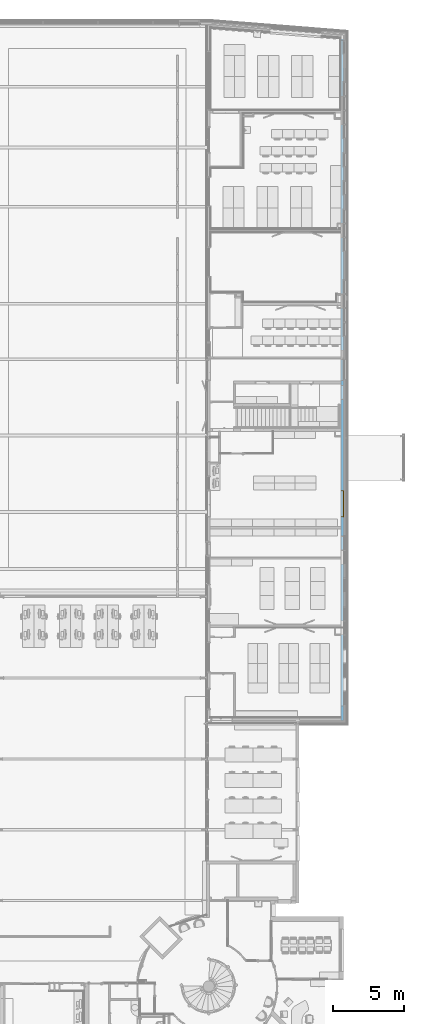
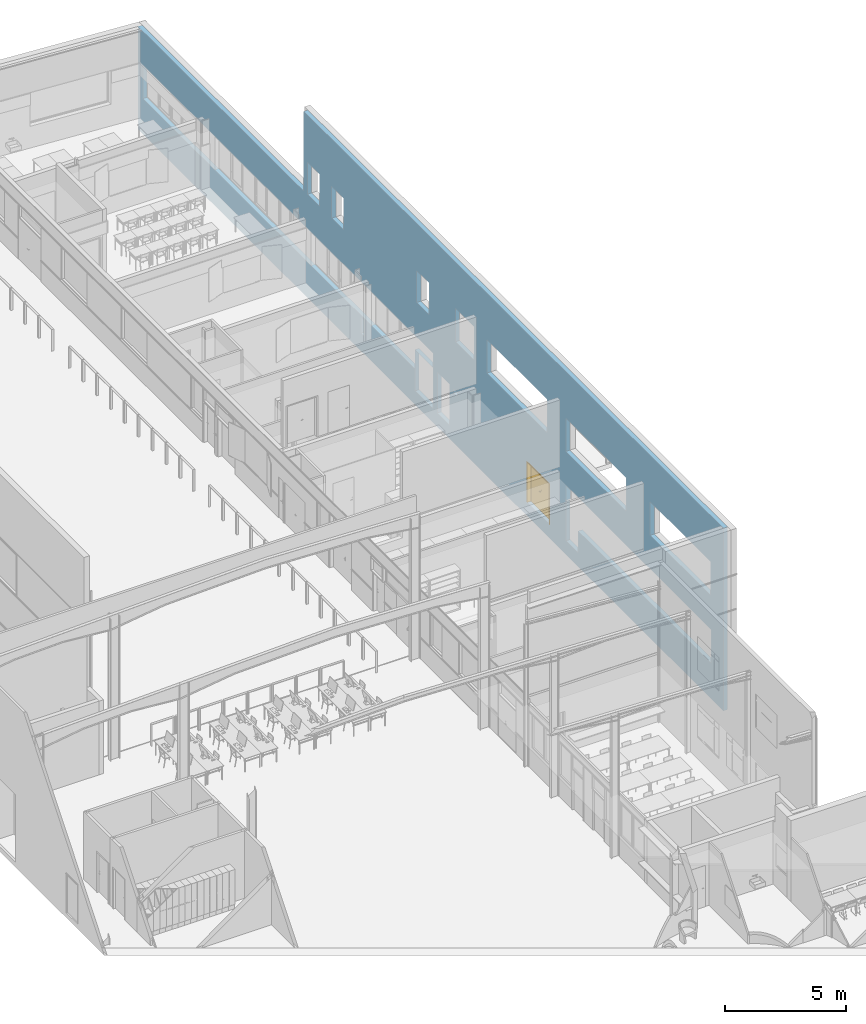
# One storey, part 101 of 137: 1 door, 4 openings, plus 1 element that does not belong to this part.
"""IFC2X3 building model written with IfcOpenShell, lengths in centimetres."""

from ifc_helpers import new_model, entity, si_unit, converted_unit, derived_unit, direction, frame, frame_2d, origin, place, context, subcontext, project, spatial, rectangle, extrude, faceted_brep, source, transform, mapped, material, material_list, type_object, type_shapes, element, fill, save


model = new_model("IFC2X3")

# Units and contexts
model_context = context("Model", 3, precision=0.001, world=origin(), true_north=direction((6.12303176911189e-17, 1.0)))
body_context = subcontext(model_context, "Body", "Model", "MODEL_VIEW")
ifc_project = project(units=[si_unit("LENGTHUNIT", "METRE", prefix="CENTI"), si_unit("AREAUNIT", "SQUARE_METRE"), si_unit("VOLUMEUNIT", "CUBIC_METRE"), converted_unit("PLANEANGLEUNIT", "DEGREE", entity("IfcRatioMeasure", 0.0174532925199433), si_unit("PLANEANGLEUNIT", "RADIAN"), dimensions=[0, 0, 0, 0, 0, 0, 0]), si_unit("MASSUNIT", "GRAM", prefix="KILO"), si_unit("TIMEUNIT", "SECOND"), si_unit("FREQUENCYUNIT", "HERTZ"), si_unit("THERMODYNAMICTEMPERATUREUNIT", "DEGREE_CELSIUS"), derived_unit("THERMALTRANSMITTANCEUNIT", [(si_unit("MASSUNIT", "GRAM", prefix="KILO"), 1), (si_unit("THERMODYNAMICTEMPERATUREUNIT", "KELVIN"), -1), (si_unit("TIMEUNIT", "SECOND"), -3)]), derived_unit("VOLUMETRICFLOWRATEUNIT", [(si_unit("LENGTHUNIT", "METRE"), 3), (si_unit("TIMEUNIT", "SECOND"), -1)]), si_unit("ELECTRICCURRENTUNIT", "AMPERE"), si_unit("ELECTRICVOLTAGEUNIT", "VOLT"), si_unit("POWERUNIT", "WATT"), si_unit("FORCEUNIT", "NEWTON", prefix="KILO"), si_unit("ILLUMINANCEUNIT", "LUX"), si_unit("LUMINOUSFLUXUNIT", "LUMEN"), si_unit("LUMINOUSINTENSITYUNIT", "CANDELA"), derived_unit("USERDEFINED", [(si_unit("MASSUNIT", "GRAM", prefix="KILO"), -1), (si_unit("LENGTHUNIT", "METRE"), -2), (si_unit("TIMEUNIT", "SECOND"), 3), (si_unit("LUMINOUSFLUXUNIT", "LUMEN"), 1)]), derived_unit("LINEARVELOCITYUNIT", [(si_unit("LENGTHUNIT", "METRE"), 1), (si_unit("TIMEUNIT", "SECOND"), -1)]), si_unit("PRESSUREUNIT", "PASCAL"), derived_unit("USERDEFINED", [(si_unit("LENGTHUNIT", "METRE"), -2), (si_unit("MASSUNIT", "GRAM", prefix="KILO"), 1), (si_unit("TIMEUNIT", "SECOND"), -2)])], contexts=[model_context])

# Site, building, storey
site_placement = place(None, frame((8.62739174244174, -249.285249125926, 0.0)))
site = spatial("IfcSite", under=ifc_project, at=site_placement, Name="Default", CompositionType="ELEMENT")
building_placement = place(site_placement, origin())
building = spatial("IfcBuilding", under=site, at=building_placement, CompositionType="ELEMENT")
storey_placement = place(building_placement, origin())
storey = spatial("IfcBuildingStorey", under=building, at=storey_placement, Name="RDC", CompositionType="ELEMENT", Elevation=-8.82465566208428e-11)

# Wall, openings, door
ifc_material_1 = material(Name="Béton, coulé sur place, gris")
wall_type = type_object("IfcWallType", Name="Mur de base:BET 21", PredefinedType="NOTDEFINED")
wall_placement = place(storey_placement, frame((3988.90482781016, 2634.98020806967, -70.0), z_axis=(0.0, 0.0, 1.0), x_axis=(0.0, 1.0, 0.0)))
wall = element("IfcWall", 1, at=wall_placement, inside=storey, type_object=wall_type, material=ifc_material_1, Name="Mur de base:BET 21", ObjectType="Mur de base:BET 21", context=body_context, shape_type="Brep", body=[
    faceted_brep([(4814.40916101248, -10.0, 350.0), (4814.40916101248, -10.0, 180.0), (2558.0, -10.0, 180.0), (2558.0, -10.0, 278.0), (2407.0, -10.0, 278.0), (2407.0, -10.0, 350.0), (2223.0, -10.0, 691.0), (2223.0, -10.0, 521.0), (2068.0, -10.0, 521.0), (2068.0, -10.0, 691.0), (2236.48822441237, -10.0, 273.988224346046), (2236.48822441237, -10.0, 253.988224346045), (2205.51572422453, -10.0, 253.988224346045), (2205.51572422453, -10.0, 273.988224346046), (2408.0, -10.0, 70.0), (2408.0, -10.0, 85.0), (2408.0, -10.0, 277.0), (2557.0, -10.0, 277.0), (2557.0, -10.0, 85.0), (2557.0, -10.0, 70.0), (2372.0, -10.0, 277.499999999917), (2372.0, -10.0, 85.0), (2372.0, -10.0, 70.0), (2272.0, -10.0, 70.0), (2272.0, -10.0, 85.0), (2272.0, -10.0, 277.499999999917), (1629.20498529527, -10.0, 277.0), (1629.20498529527, -10.0, 85.0), (1629.20498529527, -10.0, 70.0), (1440.20498529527, -10.0, 70.0), (1440.20498529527, -10.0, 85.0), (1440.20498529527, -10.0, 277.0), (1305.204985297, -10.0, 277.499999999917), (1305.204985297, -10.0, 85.0), (1305.204985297, -10.0, 70.0), (1205.204985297, -10.0, 70.0), (1205.204985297, -10.0, 85.0), (1205.204985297, -10.0, 180.0), (104.204985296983, -10.0, 180.0), (104.204985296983, -10.0, 350.0), (1304.20498529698, -10.0, 350.0), (1304.20498529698, -10.0, 277.499999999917), (1961.60249267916, -10.0, 691.0), (1961.60249267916, -10.0, 521.0), (1461.60249267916, -10.0, 521.0), (1461.60249267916, -10.0, 691.0), (1306.70498529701, -10.0, 691.0), (1306.70498529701, -10.0, 521.0), (806.704985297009, -10.0, 521.0), (806.704985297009, -10.0, 691.0), (606.704985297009, -10.0, 691.0), (606.704985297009, -10.0, 521.0), (106.704985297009, -10.0, 521.0), (106.704985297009, -10.0, 691.0), (3448.0117757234, -10.0, 686.011775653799), (3448.0117757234, -10.0, 525.011775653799), (3348.0117757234, -10.0, 525.011775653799), (3348.0117757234, -10.0, 686.011775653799), (3006.0, -10.0, 170.207427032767), (3006.0, -10.0, 89.8417534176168), (2975.0, -10.0, 89.8417534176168), (2975.0, -10.0, 170.207427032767), (2543.0, -10.0, 686.5117756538), (2543.0, -10.0, 525.511775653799), (2443.0, -10.0, 525.511775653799), (2443.0, -10.0, 686.5117756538), (3480.0, -10.0, 925.0), (3448.0, -10.0, 925.0), (32.0, -10.0, 925.0), (0.0, -10.0, 925.0), (0.0, -10.0, 0.0), (4853.30717049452, -10.0, 0.0), (4853.30717049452, -10.0, 521.0), (3507.0, -10.0, 521.0), (3480.0, -10.0, 521.0), (3248.0117757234, -10.0, 686.011775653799), (3248.0117757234, -10.0, 525.011775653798), (3148.0117757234, -10.0, 525.011775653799), (3148.0117757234, -10.0, 686.011775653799), (2408.0, 10.0, 277.0), (2408.0, 10.0, 70.0), (2557.0, 10.0, 70.0), (2557.0, 10.0, 277.0), (2372.0, 10.0, 70.0), (2372.0, 10.0, 277.499999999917), (2272.0, 10.0, 277.499999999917), (2272.0, 10.0, 70.0), (1629.20498529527, 10.0, 70.0), (1629.20498529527, 10.0, 277.0), (1440.20498529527, 10.0, 277.0), (1440.20498529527, 10.0, 70.0), (1305.204985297, 10.0, 70.0), (1305.204985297, 10.0, 277.499999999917), (1304.20498529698, 10.0, 277.499999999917), (1304.20498529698, 10.0, 350.0), (104.204985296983, 10.0, 350.0), (104.204985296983, 10.0, 180.0), (1205.204985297, 10.0, 180.0), (1205.204985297, 10.0, 70.0), (4814.40916101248, 10.0, 180.0), (4814.40916101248, 10.0, 350.0), (2407.0, 10.0, 350.0), (2407.0, 10.0, 278.0), (2558.0, 10.0, 278.0), (2558.0, 10.0, 180.0), (2223.0, 10.0, 521.0), (2223.0, 10.0, 691.0), (2068.0, 10.0, 691.0), (2068.0, 10.0, 521.0), (0.0, 10.0, 925.0), (20.0, 10.0, 925.0), (3460.0, 10.0, 925.0), (3480.0, 10.0, 925.0), (3480.0, 10.0, 521.0), (4834.82616616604, 10.0, 521.0), (4854.88859101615, 10.0, 521.0), (4854.88859101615, 10.0, 0.0), (4834.82616616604, 10.0, 0.0), (2960.0, 10.0, 0.0), (2940.0, 10.0, 0.0), (2403.0, 10.0, 0.0), (2383.0, 10.0, 0.0), (2068.0, 10.0, 0.0), (2048.0, 10.0, 0.0), (1375.20498529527, 10.0, 0.0), (1355.20498529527, 10.0, 0.0), (0.0, 10.0, 0.0), (2236.48822441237, 10.0, 253.988224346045), (2236.48822441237, 10.0, 273.988224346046), (2205.51572422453, 10.0, 273.988224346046), (2205.51572422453, 10.0, 253.988224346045), (1961.60249267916, 10.0, 521.0), (1961.60249267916, 10.0, 691.0), (1461.60249267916, 10.0, 691.0), (1461.60249267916, 10.0, 521.0), (1306.70498529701, 10.0, 521.0), (1306.70498529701, 10.0, 691.0), (806.704985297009, 10.0, 691.0), (806.704985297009, 10.0, 521.0), (606.704985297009, 10.0, 521.0), (606.704985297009, 10.0, 691.0), (106.704985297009, 10.0, 691.0), (106.704985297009, 10.0, 521.0), (3448.0117757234, 10.0, 525.011775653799), (3448.0117757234, 10.0, 686.011775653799), (3348.0117757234, 10.0, 686.011775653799), (3348.0117757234, 10.0, 525.011775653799), (3006.0, 10.0, 89.8417534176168), (3006.0, 10.0, 170.207427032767), (2975.0, 10.0, 170.207427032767), (2975.0, 10.0, 89.8417534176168), (2543.0, 10.0, 525.511775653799), (2543.0, 10.0, 686.5117756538), (2443.0, 10.0, 686.5117756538), (2443.0, 10.0, 525.511775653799), (3248.0117757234, 10.0, 525.011775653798), (3248.0117757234, 10.0, 686.011775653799), (3148.0117757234, 10.0, 686.011775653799), (3148.0117757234, 10.0, 525.011775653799)], [[[0, 1, 2, 3, 4, 5], [6, 7, 8, 9], [10, 11, 12, 13], [14, 15, 16, 17, 18, 19], [20, 21, 22, 23, 24, 25], [26, 27, 28, 29, 30, 31], [32, 33, 34, 35, 36, 37, 38, 39, 40, 41], [42, 43, 44, 45], [46, 47, 48, 49], [50, 51, 52, 53], [54, 55, 56, 57], [58, 59, 60, 61], [62, 63, 64, 65], [66, 67, 68, 69, 70, 71, 72, 73, 74], [75, 76, 77, 78]], [[79, 80, 81, 82], [83, 84, 85, 86], [87, 88, 89, 90], [91, 92, 93, 94, 95, 96, 97, 98], [99, 100, 101, 102, 103, 104], [105, 106, 107, 108], [109, 110, 111, 112, 113, 114, 115, 116, 117, 118, 119, 120, 121, 122, 123, 124, 125, 126], [127, 128, 129, 130], [131, 132, 133, 134], [135, 136, 137, 138], [139, 140, 141, 142], [143, 144, 145, 146], [147, 148, 149, 150], [151, 152, 153, 154], [155, 156, 157, 158]], [[14, 80, 79, 16, 15]], [[16, 79, 82, 17]], [[81, 19, 18, 17, 82]], [[80, 14, 19, 81]], [[83, 22, 21, 20, 84]], [[84, 20, 25, 85]], [[23, 86, 85, 25, 24]], [[22, 83, 86, 23]], [[87, 28, 27, 26, 88]], [[88, 26, 31, 89]], [[29, 90, 89, 31, 30]], [[28, 87, 90, 29]], [[35, 98, 97, 37, 36]], [[92, 32, 41, 93]], [[91, 34, 33, 32, 92]], [[98, 35, 34, 91]], [[69, 68, 67, 66, 112, 111, 110, 109]], [[70, 69, 109, 126]], [[74, 73, 72, 115, 114, 113]], [[66, 74, 113, 112]], [[99, 1, 0, 100]], [[100, 0, 5, 101]], [[101, 5, 4, 102]], [[102, 4, 3, 103]], [[40, 94, 93, 41]], [[94, 40, 39, 95]], [[95, 39, 38, 96]], [[96, 38, 37, 97]], [[103, 3, 2, 104]], [[1, 99, 104, 2]], [[105, 7, 6, 106]], [[106, 6, 9, 107]], [[107, 9, 8, 108]], [[7, 105, 108, 8]], [[11, 10, 128, 127]], [[12, 11, 127, 130]], [[13, 12, 130, 129]], [[10, 13, 129, 128]], [[71, 70, 126, 125, 124, 123, 122, 121, 120, 119, 118, 117, 116]], [[131, 43, 42, 132]], [[132, 42, 45, 133]], [[133, 45, 44, 134]], [[43, 131, 134, 44]], [[135, 47, 46, 136]], [[136, 46, 49, 137]], [[137, 49, 48, 138]], [[47, 135, 138, 48]], [[139, 51, 50, 140]], [[140, 50, 53, 141]], [[141, 53, 52, 142]], [[51, 139, 142, 52]], [[72, 71, 116, 115]], [[55, 54, 144, 143]], [[56, 55, 143, 146]], [[57, 56, 146, 145]], [[54, 57, 145, 144]], [[59, 58, 148, 147]], [[60, 59, 147, 150]], [[61, 60, 150, 149]], [[58, 61, 149, 148]], [[63, 62, 152, 151]], [[64, 63, 151, 154]], [[65, 64, 154, 153]], [[62, 65, 153, 152]], [[76, 75, 156, 155]], [[77, 76, 155, 158]], [[78, 77, 158, 157]], [[75, 78, 157, 156]]], outer=[[False, False, False, False, False, False, False, False, False, False, False, False, False, True, False], [False, False, False, False, False, False, True, False, False, False, False, False, False, False, False], [True], [True], [True], [True], [True], [True], [True], [True], [True], [True], [True], [True], [True], [True], [True], [True], [True], [True], [True], [True], [True], [True], [True], [True], [True], [True], [True], [True], [True], [True], [True], [True], [True], [True], [True], [True], [True], [True], [True], [True], [True], [True], [True], [True], [True], [True], [True], [True], [True], [True], [True], [True], [True], [True], [True], [True], [True], [True], [True], [True], [True], [True], [True], [True], [True], [True], [True], [True]]),
])
opening_1_placement = place(wall_placement, frame((2557.0, 10.0, 70.0)))
element("IfcOpeningElement", 2, at=opening_1_placement, cuts=wall, Name="Tierce(R)_bois_mu:143 x 204 cm:1", ObjectType="Opening", context=body_context, shape_type="SweptSolid", body=[
    extrude(rectangle(XDim=206.999999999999, YDim=149.0, at=frame_2d((103.499999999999, 74.4999999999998), x_axis=(1.0, 0.0))), frame((0.0, 0.0, 0.0), z_axis=(0.0, -1.0, 0.0), x_axis=(0.0, 0.0, 1.0)), (0.0, 0.0, 1.0), 20.0),
])
opening_2_placement = place(wall_placement, frame((2372.0, 10.0, 70.0)))
element("IfcOpeningElement", 3, at=opening_2_placement, cuts=wall, Name="Simple(R)_bois_mu:93 x 204 cm:1", ObjectType="Opening", context=body_context, shape_type="SweptSolid", body=[
    extrude(rectangle(XDim=207.499999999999, YDim=99.9999999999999, at=frame_2d((103.749999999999, 49.9999999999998), x_axis=(1.0, 0.0))), frame((0.0, 0.0, 0.0), z_axis=(0.0, -1.0, 0.0), x_axis=(0.0, 0.0, 1.0)), (0.0, 0.0, 1.0), 20.0),
])
opening_3_placement = place(wall_placement, frame((1629.20498529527, 10.0, 70.0)))
opening_3 = element("IfcOpeningElement", 4, at=opening_3_placement, cuts=wall, Name="Double(R)_bois_mu:183 x 204 cm:1", ObjectType="Opening", context=body_context, shape_type="SweptSolid", body=[
    extrude(rectangle(XDim=206.999999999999, YDim=189.0, at=frame_2d((103.499999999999, 94.5000000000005), x_axis=(1.0, 0.0))), frame((0.0, 0.0, 0.0), z_axis=(0.0, -1.0, 0.0), x_axis=(0.0, 0.0, 1.0)), (0.0, 0.0, 1.0), 20.0),
])
opening_4_placement = place(wall_placement, frame((1305.204985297, 10.0, 70.0)))
element("IfcOpeningElement", 5, at=opening_4_placement, cuts=wall, Name="Simple(R)_bois_mu:93 x 204 cm:1", ObjectType="Opening", context=body_context, shape_type="SweptSolid", body=[
    extrude(rectangle(XDim=207.499999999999, YDim=99.9999999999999, at=frame_2d((103.749999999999, 50.0), x_axis=(1.0, 0.0))), frame((0.0, 0.0, 0.0), z_axis=(0.0, -1.0, 0.0), x_axis=(0.0, 0.0, 1.0)), (0.0, 0.0, 1.0), 20.0),
])
ifc_material_2 = material(Name="Porte - Poignée")
ifc_material_3 = material(Name="Porte - Cadre")
ifc_material_4 = material(Name="Porte - Panneau")
ifc_material_list_1 = material_list([ifc_material_2, ifc_material_3, ifc_material_4])
ifc_material_list_2 = material_list([ifc_material_2, ifc_material_3, ifc_material_4])
door_style = type_object("IfcDoorStyle", Name="183 x 204 cm", ConstructionType="NOTDEFINED", OperationType="DOUBLE_DOOR_SINGLE_SWING", ParameterTakesPrecedence=False, Sizeable=False, material=ifc_material_list_2)
shared_shape = source(origin(), body_context, "Body", "Brep", [
    faceted_brep([(99.7974701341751, 3.69999999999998, 100.778044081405), (99.3999999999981, 3.69999999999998, 100.699999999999), (99.3999999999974, 3.69999999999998, 99.2999999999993), (99.7974701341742, 3.69999999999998, 99.2219559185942), (100.202529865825, 3.69999999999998, 99.2219559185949), (100.600000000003, 3.69999999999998, 99.3000000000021), (100.600000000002, 3.69999999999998, 100.699999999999), (100.202529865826, 3.69999999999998, 100.778044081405), (100.600000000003, 5.94852045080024, 99.3000000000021), (100.600000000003, 5.94852045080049, 100.699999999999), (100.202529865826, 6.1131579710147, 100.778044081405), (101.58389061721, 7.49451872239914, 100.778044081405), (101.416109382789, 7.89957845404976, 100.778044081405), (99.7974701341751, 6.2809392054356, 100.778044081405), (110.568474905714, 6.84673156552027, 100.778044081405), (110.854895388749, 7.13315204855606, 100.778044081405), (110.088468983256, 7.89957845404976, 100.778044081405), (109.920687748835, 7.49451872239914, 100.778044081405), (99.3999999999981, 6.44557672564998, 100.699999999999), (99.3999999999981, 6.44557672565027, 99.2999999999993), (99.7974701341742, 6.28093920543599, 99.2219559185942), (101.416109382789, 7.8995784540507, 99.2219559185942), (101.58389061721, 7.49451872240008, 99.2219559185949), (100.202529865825, 6.11315797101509, 99.2219559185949), (110.85489538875, 7.1331520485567, 99.2219559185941), (110.568474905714, 6.84673156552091, 99.2219559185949), (109.920687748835, 7.49451872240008, 99.2219559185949), (110.088468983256, 7.8995784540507, 99.2219559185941), (101.748528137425, 7.09704858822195, 99.3000000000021), (101.748528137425, 7.09704858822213, 100.699999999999), (101.251471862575, 8.29704858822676, 100.699999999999), (101.251471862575, 8.29704858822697, 99.2999999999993), (105.752290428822, 7.09704858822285, 99.3000000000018), (109.75605022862, 7.09704858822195, 99.3000000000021), (109.756050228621, 7.09704858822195, 100.699999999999), (105.752289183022, 7.09704858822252, 100.699999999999), (105.75228918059, 7.71249275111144, 100.787811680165), (110.25310650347, 8.29704858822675, 100.699999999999), (106.260057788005, 8.29704858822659, 100.699999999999), (110.25310650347, 8.29704858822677, 99.2999999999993), (105.244520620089, 8.29704858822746, 99.2999999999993), (105.752289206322, 7.71249274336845, 99.2121883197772), (110.287421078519, 6.56567773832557, 99.3000000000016), (111.135949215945, 7.41420587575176, 99.2999999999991), (111.135949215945, 7.4142058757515, 100.699999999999), (110.287421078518, 6.5656777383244, 100.699999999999)], [[[0, 1, 2, 3, 4, 5, 6, 7]], [[6, 5, 8, 9]], [[9, 10, 7, 6]], [[10, 11, 12, 13, 0, 7]], [[14, 15, 16, 17]], [[13, 18, 1, 0]], [[2, 1, 18, 19]], [[19, 20, 3, 2]], [[20, 21, 22, 23, 4, 3]], [[24, 25, 26, 27]], [[23, 8, 5, 4]], [[9, 8, 28, 29]], [[29, 11, 10, 9]], [[12, 30, 18, 13]], [[19, 18, 30, 31]], [[31, 21, 20, 19]], [[22, 28, 8, 23]], [[29, 28, 32, 33, 34, 35]], [[11, 35, 36]], [[16, 37, 38]], [[30, 12, 38]], [[38, 12, 36]], [[36, 35, 17]], [[17, 16, 36]], [[35, 11, 29]], [[34, 17, 35]], [[11, 36, 12]], [[38, 36, 16]], [[31, 30, 38, 37, 39, 40]], [[40, 41, 21]], [[41, 40, 27]], [[21, 31, 40]], [[39, 27, 40]], [[41, 32, 22]], [[22, 21, 41]], [[26, 32, 41]], [[28, 22, 32]], [[32, 26, 33]], [[26, 41, 27]], [[42, 25, 24, 43, 44, 15, 14, 45]], [[34, 33, 42, 45]], [[45, 14, 17, 34]], [[15, 44, 37, 16]], [[39, 37, 44, 43]], [[43, 24, 27, 39]], [[25, 42, 33, 26]]]),
    faceted_brep([(99.7974701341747, -1.30000000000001, 100.778044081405), (100.202529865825, -1.30000000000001, 100.778044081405), (100.600000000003, -1.30000000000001, 100.699999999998), (100.600000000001, -1.30000000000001, 99.3000000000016), (100.202529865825, -1.30000000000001, 99.2219559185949), (99.7974701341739, -1.30000000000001, 99.2219559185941), (99.3999999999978, -1.30000000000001, 99.2999999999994), (99.3999999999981, -1.30000000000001, 100.699999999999), (99.3999999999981, -4.06509507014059, 100.699999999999), (99.7974701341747, -3.90045754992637, 100.778044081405), (101.402358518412, -5.50534593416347, 100.778044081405), (101.570139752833, -5.10028620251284, 100.778044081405), (100.202529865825, -3.73267631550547, 100.778044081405), (110.852181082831, -4.73891952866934, 100.778044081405), (110.565760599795, -4.4524990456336, 100.778044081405), (109.917973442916, -5.10028620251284, 100.778044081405), (110.085754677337, -5.50534593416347, 100.778044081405), (100.600000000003, -3.56803879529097, 100.699999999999), (100.600000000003, -3.56803879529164, 99.3000000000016), (100.202529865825, -3.7326763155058, 99.2219559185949), (101.570139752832, -5.10028620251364, 99.2219559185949), (101.402358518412, -5.50534593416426, 99.2219559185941), (99.7974701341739, -3.9004575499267, 99.2219559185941), (110.565760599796, -4.45249904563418, 99.2219559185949), (110.852181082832, -4.73891952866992, 99.2219559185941), (110.085754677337, -5.50534593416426, 99.2219559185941), (109.917973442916, -5.10028620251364, 99.2219559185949), (99.3999999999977, -4.06509507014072, 99.2999999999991), (101.237720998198, -5.90281606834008, 100.699999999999), (101.734777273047, -4.70281606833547, 100.699999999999), (101.734777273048, -4.70281606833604, 99.3000000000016), (101.237720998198, -5.90281606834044, 99.2999999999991), (105.230769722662, -5.90281606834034, 100.699999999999), (105.744056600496, -5.31828027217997, 100.787811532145), (110.250392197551, -5.90281606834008, 100.699999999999), (105.744056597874, -4.70281606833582, 100.699999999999), (109.753335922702, -4.70281606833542, 100.699999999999), (109.753335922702, -4.70281606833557, 99.3000000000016), (105.744056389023, -4.70281606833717, 99.3000000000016), (105.744056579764, -5.31828027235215, 99.2121884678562), (110.250392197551, -5.90281606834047, 99.2999999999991), (106.257343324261, -5.90281606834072, 99.2999999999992), (110.2847067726, -4.1714452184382, 100.699999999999), (111.133234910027, -5.01997335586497, 100.699999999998), (111.133234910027, -5.01997335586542, 99.2999999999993), (110.284706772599, -4.17144521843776, 99.3000000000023)], [[[0, 1, 2, 3, 4, 5, 6, 7]], [[8, 9, 0, 7]], [[9, 10, 11, 12, 1, 0]], [[13, 14, 15, 16]], [[12, 17, 2, 1]], [[3, 2, 17, 18]], [[18, 19, 4, 3]], [[19, 20, 21, 22, 5, 4]], [[23, 24, 25, 26]], [[22, 27, 6, 5]], [[7, 6, 27, 8]], [[28, 10, 9, 8]], [[11, 29, 17, 12]], [[18, 17, 29, 30]], [[30, 20, 19, 18]], [[21, 31, 27, 22]], [[8, 27, 31, 28]], [[32, 33, 10]], [[33, 32, 16]], [[10, 28, 32]], [[34, 16, 32]], [[33, 35, 11]], [[11, 10, 33]], [[15, 35, 33]], [[29, 11, 35]], [[35, 15, 36]], [[15, 33, 16]], [[30, 29, 35, 36, 37, 38]], [[20, 38, 39]], [[25, 40, 41]], [[31, 21, 41]], [[41, 21, 39]], [[39, 38, 26]], [[26, 25, 39]], [[38, 20, 30]], [[37, 26, 38]], [[20, 39, 21]], [[41, 39, 25]], [[28, 31, 41, 40, 34, 32]], [[42, 14, 13, 43, 44, 24, 23, 45]], [[43, 13, 16, 34]], [[14, 42, 36, 15]], [[37, 36, 42, 45]], [[45, 23, 26, 37]], [[24, 44, 40, 25]], [[34, 40, 44, 43]]]),
    faceted_brep([(101.03527618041, 3.19999999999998, 86.6003983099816), (102.0, 3.19999999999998, 87.0), (102.0, 3.19999999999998, 108.0), (101.03527618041, 3.19999999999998, 108.399601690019), (100.0, 3.19999999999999, 108.535898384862), (98.9647238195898, 3.19999999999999, 108.399601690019), (98.0, 3.19999999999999, 108.0), (98.0, 3.19999999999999, 87.0), (98.9647238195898, 3.19999999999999, 86.6003983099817), (100.0, 3.19999999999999, 86.4641016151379), (101.03527618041, 3.69999999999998, 108.399601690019), (102.0, 3.69999999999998, 108.0), (102.0, 3.69999999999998, 87.0), (101.03527618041, 3.69999999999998, 86.6003983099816), (100.0, 3.69999999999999, 86.4641016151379), (98.9647238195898, 3.69999999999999, 86.6003983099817), (98.0, 3.69999999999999, 87.0), (98.0, 3.69999999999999, 108.0), (98.9647238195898, 3.69999999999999, 108.399601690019), (100.0, 3.69999999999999, 108.535898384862)], [[[0, 1, 2, 3, 4, 5, 6, 7, 8, 9]], [[10, 11, 12, 13, 14, 15, 16, 17, 18, 19]], [[11, 10, 3, 2]], [[3, 10, 19, 4]], [[19, 18, 5, 4]], [[18, 17, 6, 5]], [[7, 6, 17, 16]], [[16, 15, 8, 7]], [[8, 15, 14, 9]], [[14, 13, 0, 9]], [[13, 12, 1, 0]], [[2, 1, 12, 11]]]),
    faceted_brep([(101.03527618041, -1.30000000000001, 86.6003983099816), (102.0, -1.30000000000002, 87.0), (102.0, -1.30000000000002, 108.0), (101.03527618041, -1.30000000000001, 108.399601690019), (100.0, -1.30000000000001, 108.535898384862), (98.9647238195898, -1.30000000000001, 108.399601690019), (98.0, -1.30000000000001, 108.0), (98.0, -1.30000000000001, 87.0), (98.9647238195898, -1.30000000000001, 86.6003983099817), (100.0, -1.30000000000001, 86.4641016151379), (101.03527618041, -0.800000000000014, 108.399601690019), (102.0, -0.800000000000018, 108.0), (102.0, -0.800000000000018, 87.0), (101.03527618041, -0.800000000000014, 86.6003983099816), (100.0, -0.800000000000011, 86.4641016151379), (98.9647238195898, -0.800000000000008, 86.6003983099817), (98.0, -0.800000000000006, 87.0), (98.0, -0.800000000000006, 108.0), (98.9647238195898, -0.800000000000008, 108.399601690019), (100.0, -0.800000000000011, 108.535898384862)], [[[0, 1, 2, 3, 4, 5, 6, 7, 8, 9]], [[10, 11, 12, 13, 14, 15, 16, 17, 18, 19]], [[16, 15, 8, 7]], [[8, 15, 14, 9]], [[14, 13, 0, 9]], [[13, 12, 1, 0]], [[2, 1, 12, 11]], [[11, 10, 3, 2]], [[3, 10, 19, 4]], [[19, 18, 5, 4]], [[18, 17, 6, 5]], [[7, 6, 17, 16]]]),
    faceted_brep([(0.0, 0.0, 0.0), (0.0, 20.0, 0.0), (-1.0, 20.0, 0.0), (-1.0, 20.8000000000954, 0.0), (4.0, 20.8000000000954, 0.0), (4.0, 3.2, 0.0), (3.0, 3.2, 0.0), (3.0, -0.799999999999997, 0.0), (-1.0, -0.799999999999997, 0.0), (-1.0, 0.0, 0.0), (0.0, 0.0, 207.0), (0.0, 20.0, 207.0), (189.0, 20.0, 207.0), (189.0, 20.0, 0.0), (190.0, 20.0, 0.0), (190.0, 20.0, 208.0), (-1.0, 20.0, 208.0), (-1.0, 20.8000000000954, 208.0), (190.0, 20.8000000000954, 208.0), (190.0, 20.8000000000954, 0.0), (185.0, 20.8000000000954, 0.0), (185.0, 20.8000000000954, 203.0), (4.0, 20.8000000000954, 203.0), (4.0, 3.2, 203.0), (185.0, 3.2, 203.0), (185.0, 3.2, 0.0), (186.0, 3.2, 0.0), (186.0, 3.2, 204.0), (3.0, 3.2, 204.0), (3.0, -0.799999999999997, 204.0), (186.0, -0.799999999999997, 204.0), (186.0, -0.799999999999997, 0.0), (190.0, -0.799999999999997, 0.0), (190.0, -0.799999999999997, 208.0), (-1.0, -0.799999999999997, 208.0), (-1.0, 0.0, 208.0), (190.0, 0.0, 208.0), (190.0, 0.0, 0.0), (189.0, 0.0, 0.0), (189.0, 0.0, 207.0)], [[[0, 1, 2, 3, 4, 5, 6, 7, 8, 9]], [[1, 0, 10, 11]], [[2, 1, 11, 12, 13, 14, 15, 16]], [[3, 2, 16, 17]], [[4, 3, 17, 18, 19, 20, 21, 22]], [[5, 4, 22, 23]], [[6, 5, 23, 24, 25, 26, 27, 28]], [[7, 6, 28, 29]], [[8, 7, 29, 30, 31, 32, 33, 34]], [[9, 8, 34, 35]], [[0, 9, 35, 36, 37, 38, 39, 10]], [[12, 39, 38, 13]], [[38, 37, 32, 31, 26, 25, 20, 19, 14, 13]], [[18, 15, 14, 19]], [[24, 21, 20, 25]], [[30, 27, 26, 31]], [[36, 33, 32, 37]], [[11, 10, 39, 12]], [[17, 16, 15, 18]], [[23, 22, 21, 24]], [[29, 28, 27, 30]], [[35, 34, 33, 36]]]),
    faceted_brep([(186.0, -0.799999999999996, 0.0), (186.0, -0.799999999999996, 204.0), (94.4999999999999, -0.799999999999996, 204.0), (94.4999999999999, -0.799999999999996, 0.0), (186.0, 3.2, 0.0), (94.4999999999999, 3.2, 0.0), (94.4999999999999, 3.2, 204.0), (186.0, 3.2, 204.0)], [[[0, 1, 2, 3]], [[4, 5, 6, 7]], [[1, 0, 4, 7]], [[2, 1, 7, 6]], [[3, 2, 6, 5]], [[0, 3, 5, 4]]]),
    faceted_brep([(3.0, -0.799999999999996, 204.0), (3.0, -0.799999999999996, 0.0), (94.4999999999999, -0.799999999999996, 0.0), (94.4999999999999, -0.799999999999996, 204.0), (3.0, 3.2, 204.0), (94.4999999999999, 3.2, 204.0), (94.4999999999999, 3.2, 0.0), (3.0, 3.2, 0.0)], [[[0, 1, 2, 3]], [[4, 5, 6, 7]], [[1, 0, 4, 7]], [[2, 1, 7, 6]], [[3, 2, 6, 5]], [[0, 3, 5, 4]]]),
])
type_shapes(door_style, [shared_shape])
door_placement = place(opening_3_placement, frame((-189.0, -20.0, 0.0)))
door = element("IfcDoor", 6, at=door_placement, inside=storey, type_object=door_style, material=ifc_material_list_1, Name="Double(R)_bois_mu:183 x 204 cm", ObjectType="183 x 204 cm", OverallHeight=206.999999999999, OverallWidth=189.0, context=body_context, shape_type="MappedRepresentation", body=[
    mapped(shared_shape, transform((0.0, 0.0, 0.0), scale=1.0)),
])
fill(opening_3, door)

save(model, "model.ifc")
